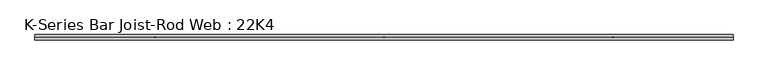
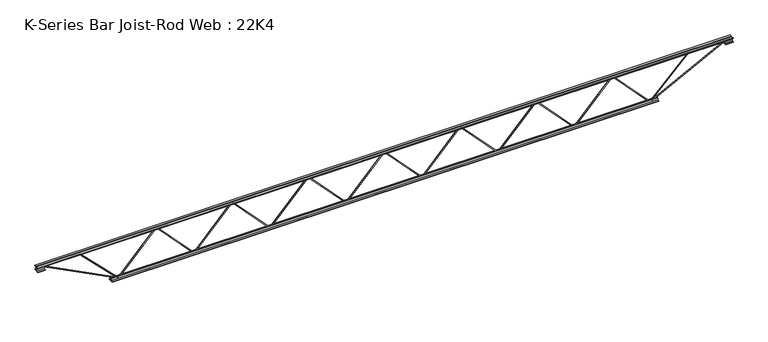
"""IFC4 building model written with IfcOpenShell, lengths in millimetres: beam geometry, K-Series Bar Joist-Rod Web : 22K4."""

from ifc_helpers import new_model, si_unit, frame, origin, place, context, project, spatial, polyline, outline, extrude, source, transform, mapped, element, save


def k_series_bar_joist_rod_web_22k4_82dcadde(model_context):
    return source(origin(), model_context, "Body", "SweptSolid", [
        extrude(outline(polyline([(-268.2875, 1561.7598214), (-277.8125, 1561.7598214), (-277.8125, 1566.9918538), (268.2875, 2081.228461), (268.2875, 2083.4643962), (-277.8125, 2597.7010033), (-277.8125, 2602.9330357), (-268.2875, 2602.9330357), (-268.2875, 2601.8150681), (277.8125, 2087.578461), (277.8125, 2077.1143962), (-268.2875, 1562.877789), (-268.2875, 1561.7598214)])), frame((0.0, -4.7625, 0.0), z_axis=(0.0, 1.0, 0.0), x_axis=(0.0, 0.0, 1.0)), (0.0, 0.0, 1.0), 9.525),
        extrude(outline(polyline([(-268.2875, 520.5866071), (-277.8125, 520.5866071), (-277.8125, 525.8186396), (268.2875, 1040.0552467), (268.2875, 1042.2911819), (-277.8125, 1556.527789), (-277.8125, 1561.7598214), (-268.2875, 1561.7598214), (-268.2875, 1560.6418538), (277.8125, 1046.4052467), (277.8125, 1035.9411819), (-268.2875, 521.7045747), (-268.2875, 520.5866071)])), frame((0.0, -4.7625, 0.0), z_axis=(0.0, 1.0, 0.0), x_axis=(0.0, 0.0, 1.0)), (0.0, 0.0, 1.0), 9.525),
        extrude(outline(polyline([(-268.2875, -520.5866071), (-277.8125, -520.5866071), (-277.8125, -515.3545747), (268.2875, -1.1179676), (268.2875, 1.1179676), (-277.8125, 515.3545747), (-277.8125, 520.5866071), (-268.2875, 520.5866071), (-268.2875, 519.4686396), (277.8125, 5.2320324), (277.8125, -5.2320324), (-268.2875, -519.4686396), (-268.2875, -520.5866071)])), frame((0.0, -4.7625, 0.0), z_axis=(0.0, 1.0, 0.0), x_axis=(0.0, 0.0, 1.0)), (0.0, 0.0, 1.0), 9.525),
        extrude(outline(polyline([(-268.2875, -1561.7598214), (-277.8125, -1561.7598214), (-277.8125, -1556.527789), (268.2875, -1042.2911819), (268.2875, -1040.0552467), (-277.8125, -525.8186396), (-277.8125, -520.5866071), (-268.2875, -520.5866071), (-268.2875, -521.7045747), (277.8125, -1035.9411819), (277.8125, -1046.4052467), (-268.2875, -1560.6418538), (-268.2875, -1561.7598214)])), frame((0.0, -4.7625, 0.0), z_axis=(0.0, 1.0, 0.0), x_axis=(0.0, 0.0, 1.0)), (0.0, 0.0, 1.0), 9.525),
        extrude(outline(polyline([(-268.2875, -2602.9330357), (-277.8125, -2602.9330357), (-277.8125, -2597.7010033), (268.2875, -2083.4643962), (268.2875, -2081.228461), (-277.8125, -1566.9918538), (-277.8125, -1561.7598214), (-268.2875, -1561.7598214), (-268.2875, -1562.877789), (277.8125, -2077.1143962), (277.8125, -2087.578461), (-268.2875, -2601.8150681), (-268.2875, -2602.9330357)])), frame((0.0, -4.7625, 0.0), z_axis=(0.0, 1.0, 0.0), x_axis=(0.0, 0.0, 1.0)), (0.0, 0.0, 1.0), 9.525),
        extrude(outline(polyline([(-268.2875, 2602.9330357), (-277.8125, 2602.9330357), (-277.8125, 2608.1650681), (268.2875, 3122.4016753), (268.2875, 3124.6376104), (-277.8125, 3638.8742176), (-277.8125, 3644.10625), (-268.2875, 3644.10625), (-268.2875, 3642.9882824), (277.8125, 3128.7516753), (277.8125, 3118.2876104), (-268.2875, 2604.0510033), (-268.2875, 2602.9330357)])), frame((0.0, -4.7625, 0.0), z_axis=(0.0, 1.0, 0.0), x_axis=(0.0, 0.0, 1.0)), (0.0, 0.0, 1.0), 9.525),
        extrude(outline(polyline([(-268.2875, -3644.10625), (-277.8125, -3644.10625), (-277.8125, -3638.8742176), (268.2875, -3124.6376104), (268.2875, -3122.4016753), (-277.8125, -2608.1650681), (-277.8125, -2602.9330357), (-268.2875, -2602.9330357), (-268.2875, -2604.0510033), (277.8125, -3118.2876104), (277.8125, -3128.7516753), (-268.2875, -3642.9882824), (-268.2875, -3644.10625)])), frame((0.0, -4.7625, 0.0), z_axis=(0.0, 1.0, 0.0), x_axis=(0.0, 0.0, 1.0)), (0.0, 0.0, 1.0), 9.525),
        extrude(outline(polyline([(4.7625, 279.4), (36.5125, 279.4), (36.5125, 273.05), (11.1125, 273.05), (11.1125, 247.65), (4.7625, 247.65), (4.7625, 279.4)])), frame((-4761.70625, 0.0, 0.0), z_axis=(1.0, 0.0, 0.0), x_axis=(0.0, 1.0, 0.0)), (0.0, 0.0, 1.0), 9523.4125),
        extrude(outline(polyline([(-4.7625, 279.4), (-4.7625, 247.65), (-11.1125, 247.65), (-11.1125, 273.05), (-36.5125, 273.05), (-36.5125, 279.4), (-4.7625, 279.4)])), frame((-4761.70625, 0.0, 0.0), z_axis=(1.0, 0.0, 0.0), x_axis=(0.0, 1.0, 0.0)), (0.0, 0.0, 1.0), 9523.4125),
        extrude(outline(polyline([(-4.7625, 215.9), (-36.5125, 215.9), (-36.5125, 222.25), (-11.1125, 222.25), (-11.1125, 247.65), (-4.7625, 247.65), (-4.7625, 215.9)])), frame((-4761.70625, 0.0, 0.0), z_axis=(1.0, 0.0, 0.0), x_axis=(0.0, 1.0, 0.0)), (0.0, 0.0, 1.0), 101.6),
        extrude(outline(polyline([(36.5125, 215.9), (4.7625, 215.9), (4.7625, 247.65), (11.1125, 247.65), (11.1125, 222.25), (36.5125, 222.25), (36.5125, 215.9)])), frame((-4761.70625, 0.0, 0.0), z_axis=(1.0, 0.0, 0.0), x_axis=(0.0, 1.0, 0.0)), (0.0, 0.0, 1.0), 101.6),
        extrude(outline(polyline([(4.7625, 215.9), (4.7625, 247.65), (11.1125, 247.65), (11.1125, 222.25), (36.5125, 222.25), (36.5125, 215.9), (4.7625, 215.9)])), frame((4660.10625, 0.0, 0.0), z_axis=(1.0, 0.0, 0.0), x_axis=(0.0, 1.0, 0.0)), (0.0, 0.0, 1.0), 101.6),
        extrude(outline(polyline([(-4.7625, 215.9), (-36.5125, 215.9), (-36.5125, 222.25), (-11.1125, 222.25), (-11.1125, 247.65), (-4.7625, 247.65), (-4.7625, 215.9)])), frame((4660.10625, 0.0, 0.0), z_axis=(1.0, 0.0, 0.0), x_axis=(0.0, 1.0, 0.0)), (0.0, 0.0, 1.0), 101.6),
        extrude(outline(polyline([(4.7625, -279.4), (4.7625, -247.65), (11.1125, -247.65), (11.1125, -273.05), (36.5125, -273.05), (36.5125, -279.4), (4.7625, -279.4)])), frame((-3745.70625, 0.0, 0.0), z_axis=(1.0, 0.0, 0.0), x_axis=(0.0, 1.0, 0.0)), (0.0, 0.0, 1.0), 7491.4125),
        extrude(outline(polyline([(-4.7625, -279.4), (-36.5125, -279.4), (-36.5125, -273.05), (-11.1125, -273.05), (-11.1125, -247.65), (-4.7625, -247.65), (-4.7625, -279.4)])), frame((-3745.70625, 0.0, 0.0), z_axis=(1.0, 0.0, 0.0), x_axis=(0.0, 1.0, 0.0)), (0.0, 0.0, 1.0), 7491.4125),
        extrude(outline(polyline([(0.0, -9.525), (0.0, 0.0), (1141.6586574, 0.0), (1141.6586574, -9.525), (0.0, -9.525)])), frame((-4662.2783824, 4.7625, 243.4116929), z_axis=(0.45609079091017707, 0.0, 0.8899332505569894), x_axis=(0.8899332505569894, 0.0, -0.45609079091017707)), (0.0, 0.0, 1.0), 9.525),
        extrude(outline(polyline([(4.7625, 4.7625), (4.7625, -4.7625), (-4.7625, -4.7625), (-4.7625, 4.7625), (4.7625, 4.7625)])), frame((-3644.10625, 0.0, -273.05), z_axis=(-0.7070297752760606, 0.0, 0.7071837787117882), x_axis=(0.0, -1.0, 0.0)), (0.0, 0.0, 1.0), 736.3008254),
        extrude(outline(polyline([(0.0, -9.525), (0.0, 0.0), (1141.6586574, 0.0), (1141.6586574, -9.525), (0.0, -9.525)])), frame((4662.2783824, -4.7625, 243.4116929), z_axis=(-0.45609079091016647, 0.0, 0.8899332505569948), x_axis=(-0.8899332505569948, 0.0, -0.45609079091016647)), (0.0, 0.0, 1.0), 9.525),
        extrude(outline(polyline([(4.7625, 4.7625), (4.7625, -4.7625), (-4.7625, -4.7625), (-4.7625, 4.7625), (4.7625, 4.7625)])), frame((3644.10625, 0.0, -273.05), z_axis=(0.7070297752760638, 0.0, 0.7071837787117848), x_axis=(0.0, -1.0, 0.0)), (0.0, 0.0, 1.0), 736.3008254),
    ])


if __name__ == "__main__":
    model = new_model("IFC4")
    model_context = context("Model", 3, world=origin())
    ifc_project = project(units=[si_unit("LENGTHUNIT", "METRE", prefix="MILLI")], contexts=[model_context])
    site = spatial("IfcSite", under=ifc_project)
    building = spatial("IfcBuilding", under=site)
    placement = place(None, origin())
    k_series_bar_joist_rod_web_22k4_shape = k_series_bar_joist_rod_web_22k4_82dcadde(model_context)
    element("IfcBeam", 1, ObjectType="K-Series Bar Joist-Rod Web : 22K4", at=placement, inside=building, context=model_context, shape_type="MappedRepresentation", body=[
        mapped(k_series_bar_joist_rod_web_22k4_shape, transform((0.0, 0.0, 0.0), x_axis=(1.0, 0.0, 0.0), y_axis=(0.0, 1.0, 0.0), z_axis=(0.0, 0.0, 1.0))),
    ])
    save(model, "model.ifc")
